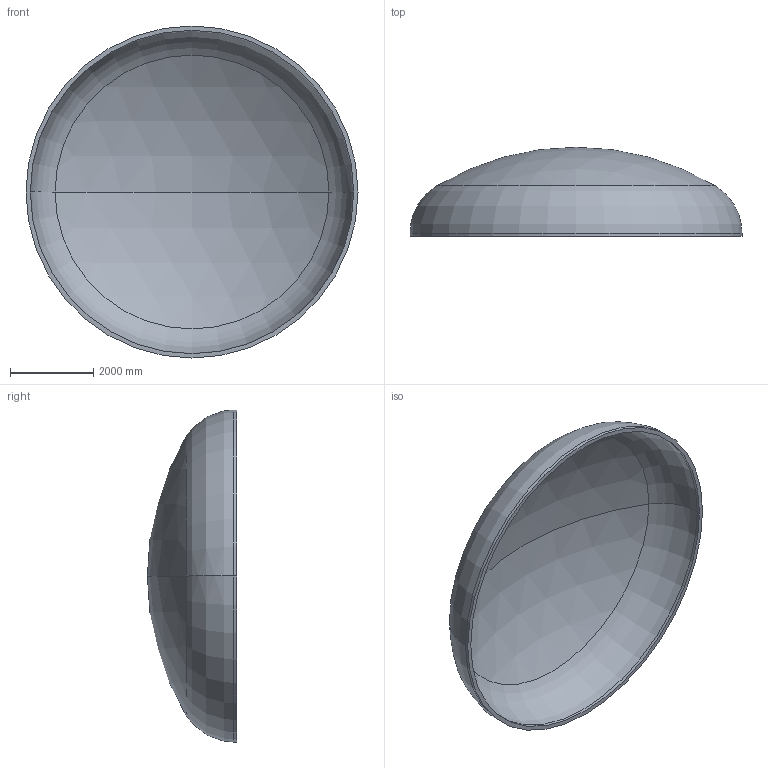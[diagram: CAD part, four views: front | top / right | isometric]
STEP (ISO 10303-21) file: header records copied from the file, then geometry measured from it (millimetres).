
FILE_DESCRIPTION (( 'STEP AP203' ), '1' );
FILE_NAME ('DIN 28013 Korbbogenform_-_Boden DIN 28013 - 8000 x 75 - I - s=104.step', '2016-07-04T11:05:21', ( '' ), ( '' ), 'SwSTEP 2.0', 'SolidWorks 2013', '' );
FILE_SCHEMA (( 'CONFIG_CONTROL_DESIGN' ));
Length unit declared in the file: millimetre
Products named in the file (1): DIN 28013 Korbbogenform_-_Boden DIN 28013 - 8000 x 75 - I - s=104
Bounding box: 8000 x 2149.4 x 8000 mm (x, y, z)
Volume: 7308033544 mm3; surface area: 143141530.6 mm2
Topology: 1 solids, 1 shells, 13 faces, 24 edges, 14 vertices
Faces by surface type: torus 4, cylinder 4, sphere 4, plane 1
Entity records: 407 total; most frequent: DIRECTION 72, CARTESIAN_POINT 52, ORIENTED_EDGE 48, AXIS2_PLACEMENT_3D 34, EDGE_CURVE 24, CIRCLE 20, EDGE_LOOP 14, VERTEX_POINT 14
